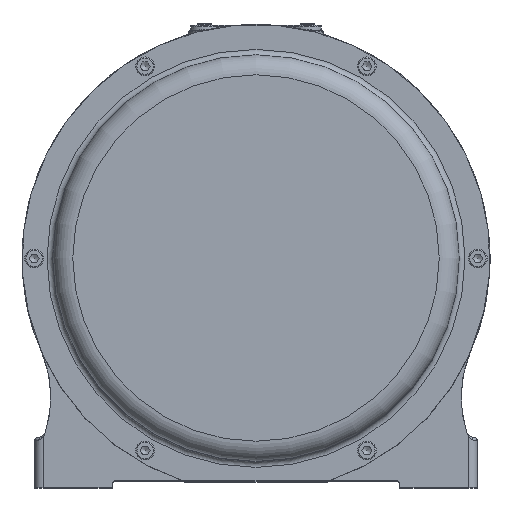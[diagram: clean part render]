
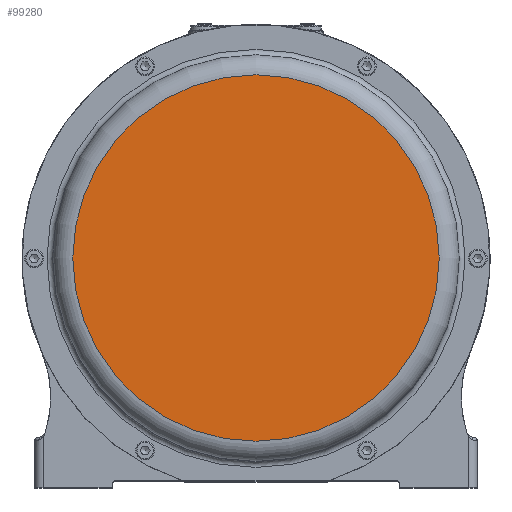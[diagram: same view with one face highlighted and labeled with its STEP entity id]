
A CAD part, top view. The second image highlights one B-rep face of the part: STEP entity #99280.
In plain terms, the highlighted planar face has unit normal (0, 0, 1).
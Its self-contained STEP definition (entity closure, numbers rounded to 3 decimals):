
#12476=CIRCLE('',#106911,128.);
#15112=FACE_OUTER_BOUND('',#20789,.T.);
#20789=EDGE_LOOP('',(#75228));
#44227=VERTEX_POINT('',#194130);
#55627=EDGE_CURVE('',#44227,#44227,#12476,.T.);
#75228=ORIENTED_EDGE('',*,*,#55627,.F.);
#94921=PLANE('',#106910);
#99280=ADVANCED_FACE('',(#15112),#94921,.T.);
#106910=AXIS2_PLACEMENT_3D('',#194129,#119635,#119636);
#106911=AXIS2_PLACEMENT_3D('',#194131,#119637,#119638);
#119635=DIRECTION('center_axis',(0.,0.,1.));
#119636=DIRECTION('ref_axis',(1.,0.,0.));
#119637=DIRECTION('center_axis',(0.,0.,-1.));
#119638=DIRECTION('ref_axis',(0.,-1.,0.));
#194129=CARTESIAN_POINT('Origin',(-12.427,76.686,304.));
#194130=CARTESIAN_POINT('',(115.573,5.686,304.));
#194131=CARTESIAN_POINT('Origin',(-12.427,5.686,304.));
